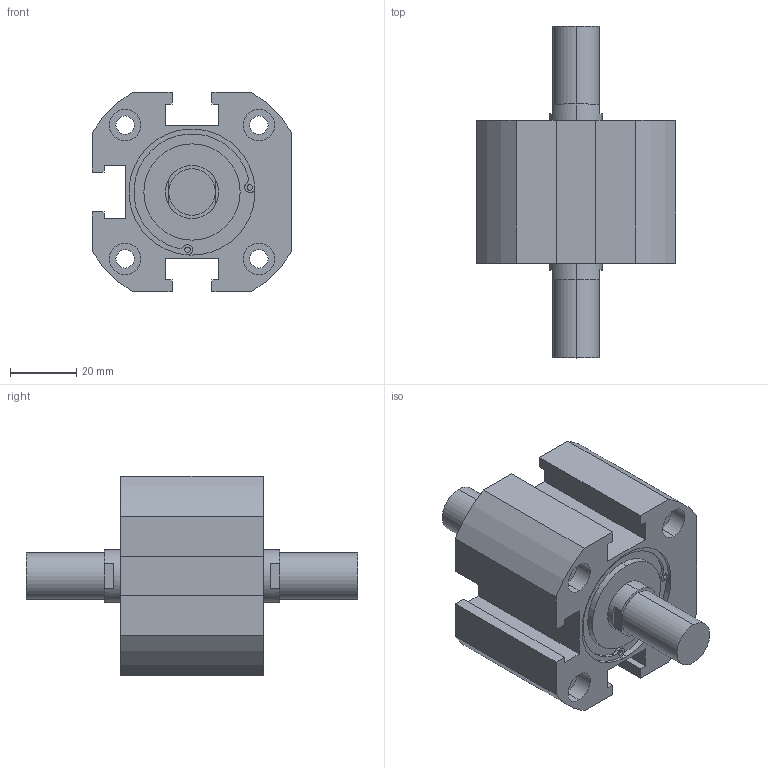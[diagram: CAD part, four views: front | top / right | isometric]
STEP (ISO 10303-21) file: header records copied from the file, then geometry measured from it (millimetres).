
FILE_DESCRIPTION (( 'STEP AP203' ), '1' );
FILE_NAME ('XG#M7-40-10.STEP', '2016-05-24T02:23:57', ( '' ), ( '' ), 'SwSTEP 2.0', 'SolidWorks 2014', '' );
FILE_SCHEMA (( 'CONFIG_CONTROL_DESIGN' ));
Length unit declared in the file: millimetre
Products named in the file (1): XG#M7-40-10
Bounding box: 60 x 100 x 60 mm (x, y, z)
Volume: 125794.4 mm3; surface area: 26014 mm2
Topology: 1 solids, 1 shells, 149 faces, 369 edges, 240 vertices
Faces by surface type: cylinder 77, plane 64, cone 8
Entity records: 4546 total; most frequent: DIRECTION 839, CARTESIAN_POINT 755, ORIENTED_EDGE 730, EDGE_CURVE 365, AXIS2_PLACEMENT_3D 324, VERTEX_POINT 240, LINE 191, VECTOR 191
